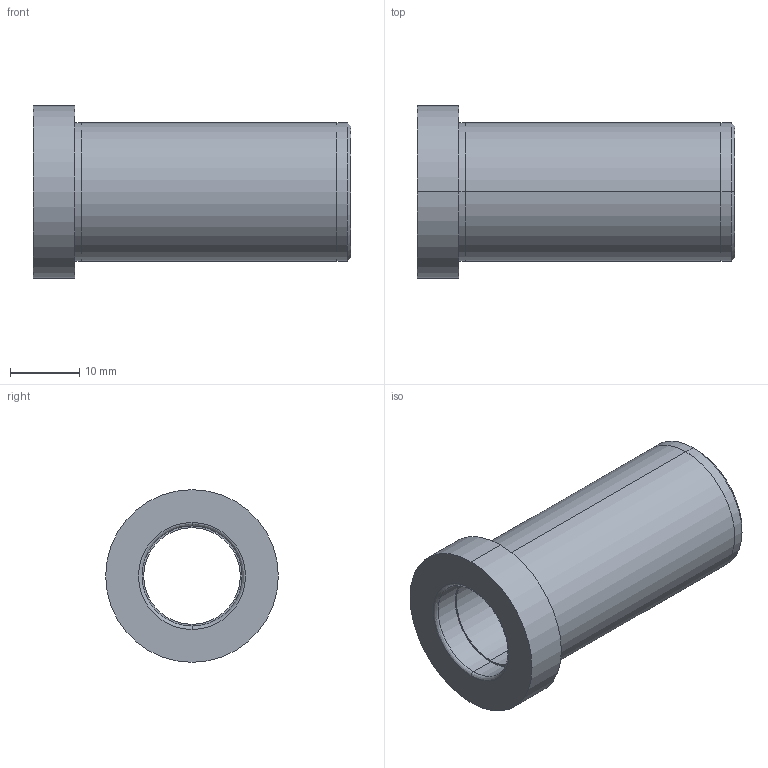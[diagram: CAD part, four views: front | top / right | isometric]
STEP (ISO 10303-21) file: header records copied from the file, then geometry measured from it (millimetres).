
FILE_DESCRIPTION( ( 'STEP AP203' ), '1' );
FILE_NAME( 'C:/Projects/D20 - 14x46.step', '2002-12-31T23:38:13', ( ' ' ), ( ' ' ), 'XStep 1.0', ' ', ' ' );
FILE_SCHEMA( ( 'CONFIG_CONTROL_DESIGN' ) );
Length unit declared in the file: metre
Products named in the file (1): 1
Bounding box: 46 x 25 x 25 mm (x, y, z)
Volume: 8396.4 mm3; surface area: 5653.7 mm2
Topology: 1 solids, 1 shells, 24 faces, 48 edges, 30 vertices
Faces by surface type: revolution 14, bspline 10
Entity records: 755 total; most frequent: CARTESIAN_POINT 221, ORIENTED_EDGE 96, DIRECTION 90, EDGE_CURVE 48, AXIS2_PLACEMENT_3D 31, EDGE_LOOP 30, VERTEX_POINT 30, CIRCLE 30
